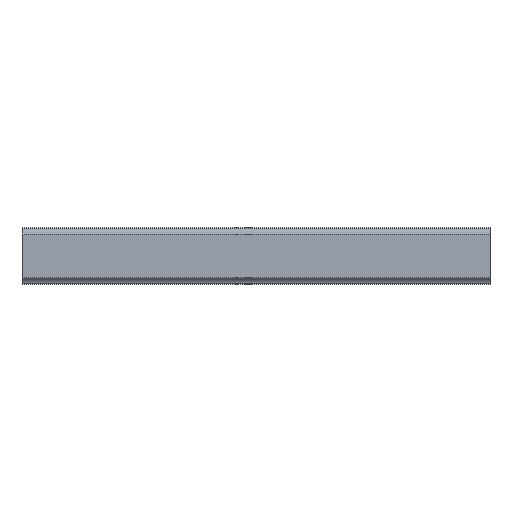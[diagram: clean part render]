
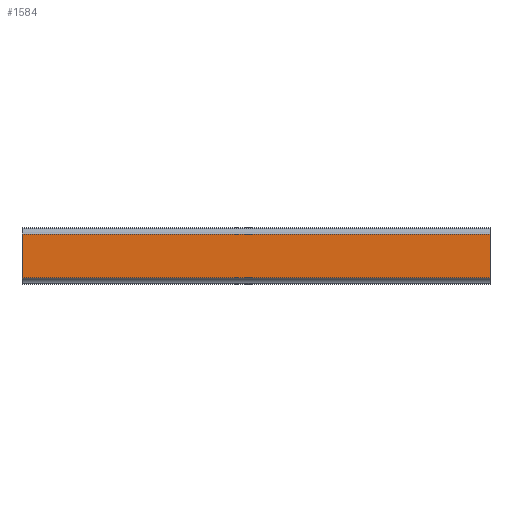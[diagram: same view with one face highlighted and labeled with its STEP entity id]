
A CAD part, top view. The second image highlights one B-rep face of the part: STEP entity #1584.
In plain terms, the highlighted planar face has unit normal (0, 0, 1).
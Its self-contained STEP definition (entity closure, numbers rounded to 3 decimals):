
#1021=CARTESIAN_POINT('POINT74',(260.,13.11,
   29.));
#1022=VERTEX_POINT('VERTEX74',#1021);
#1029=CARTESIAN_POINT('POINT75',(260.,-13.11,
   29.));
#1030=VERTEX_POINT('VERTEX75',#1029);
#1031=CARTESIAN_POINT('POS101',(260.,-13.11,
   29.));
#1032=DIRECTION('DIR154',(0.,1.,0.));
#1033=VECTOR('VEC48',#1032,1.);
#1034=LINE('STRAIGHT48',#1031,#1033);
#1035=EDGE_CURVE('EDGE111',#1030,#1022,#1034,.T.);
#1539=CARTESIAN_POINT('POINT108',(-20.,13.11,
   29.));
#1540=VERTEX_POINT('VERTEX108',#1539);
#1547=CARTESIAN_POINT('POS160',(-20.,13.11,
   29.));
#1548=DIRECTION('DIR235',(1.,0.,0.));
#1549=VECTOR('VEC85',#1548,1.);
#1550=LINE('STRAIGHT85',#1547,#1549);
#1551=EDGE_CURVE('EDGE163',#1540,#1022,#1550,.T.);
#1561=ORIENTED_EDGE('COEDGE276',*,*,#1035,.T.);
#1562=ORIENTED_EDGE('COEDGE277',*,*,#1551,.F.);
#1563=CARTESIAN_POINT('POINT109',(-20.,-13.11,
   29.));
#1564=VERTEX_POINT('VERTEX109',#1563);
#1565=CARTESIAN_POINT('POS162',(-20.,-13.11,
   29.));
#1566=DIRECTION('DIR238',(0.,1.,0.));
#1567=VECTOR('VEC86',#1566,1.);
#1568=LINE('STRAIGHT86',#1565,#1567);
#1569=EDGE_CURVE('EDGE164',#1564,#1540,#1568,.T.);
#1570=ORIENTED_EDGE('COEDGE278',*,*,#1569,.F.);
#1571=CARTESIAN_POINT('POS163',(-20.,-13.11,
   29.));
#1572=DIRECTION('DIR239',(1.,0.,0.));
#1573=VECTOR('VEC87',#1572,1.);
#1574=LINE('STRAIGHT87',#1571,#1573);
#1575=EDGE_CURVE('EDGE165',#1564,#1030,#1574,.T.);
#1576=ORIENTED_EDGE('COEDGE279',*,*,#1575,.T.);
#1577=EDGE_LOOP('NONE',(#1561,#1562,#1570,#1576));
#1578=FACE_BOUND('LOOP1',#1577,.T.);
#1579=CARTESIAN_POINT('POS164',(-20.,-13.11,
   29.));
#1580=DIRECTION('DIR240',(0.,0.,1.));
#1581=DIRECTION('DIR241',(1.,0.,0.));
#1582=AXIS2_PLACEMENT_3D('AXIS77',#1579,#1580,#1581);
#1583=PLANE('PLANE19',#1582);
#1584=ADVANCED_FACE('FACE61',(#1578),#1583,.T.);
